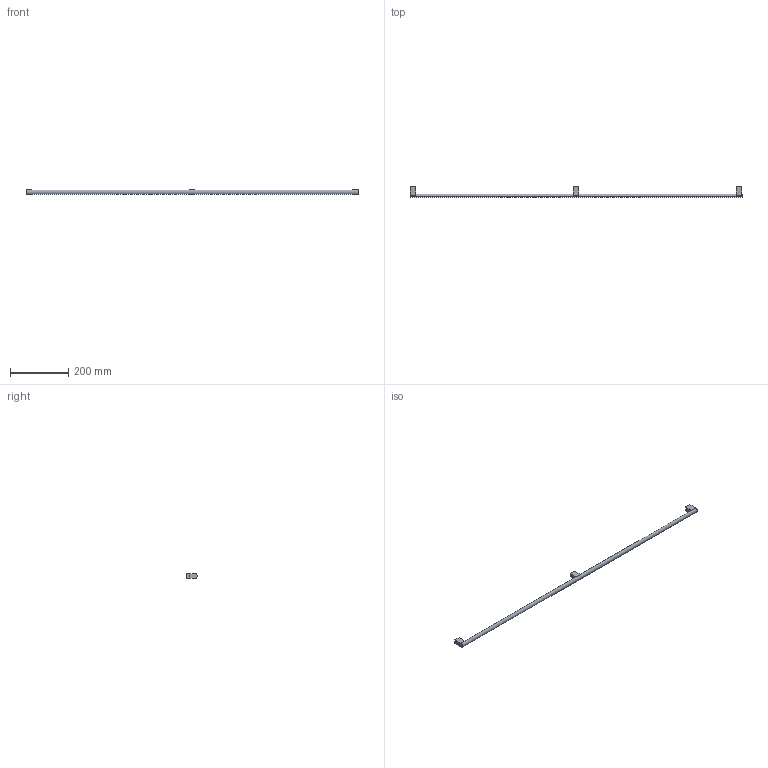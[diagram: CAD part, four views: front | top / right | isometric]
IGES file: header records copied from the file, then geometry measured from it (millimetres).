
Start section: Data from Parasolid IGES Translator 20.0.26, Copyright(c) 2006 Siemens P LM Software. All Rights Reserved.
Global section: file name: 115217.igs; native system: By Siemens PLM Incorporated; preprocessor: XPlus GENERIC/IGES 20.0.26; author: Noname; organization: Noname; date: 20230220.164612; units: millimetre
Bounding box: 1140 x 35.96 x 16 mm (x, y, z)
Surface area: 54941.9 mm2 (no closed solid volume)
Topology: 0 solids, 0 shells, 31 faces, 144 edges, 140 vertices
Faces by surface type: extrusion 25, revolution 6
